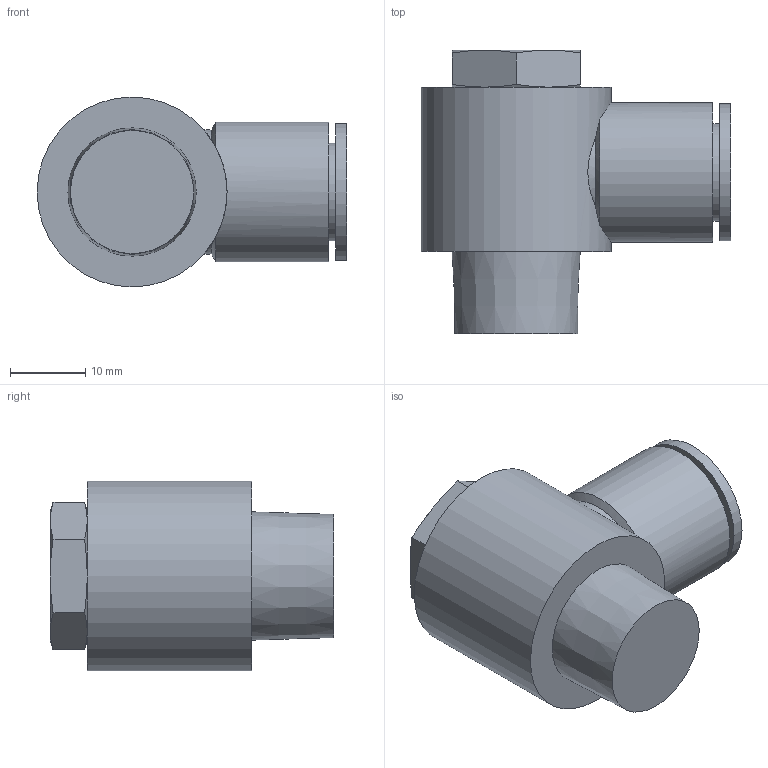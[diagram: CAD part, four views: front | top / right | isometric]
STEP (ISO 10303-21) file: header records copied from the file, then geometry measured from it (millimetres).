
FILE_DESCRIPTION(/* description */ ('STEP AP214'),/* implementation_level */ '2;1');
FILE_NAME(/* name */ 'KQ2V12-03AS',/* time_stamp */ '2024-10-24T13:56:45+02:00',/* author */ ('License CC BY-ND 4.0'),/* organization */ ('CADENAS'),/* preprocessor_version */ 'ST-DEVELOPER v19.3',/* originating_system */ 'PARTsolutions',/* authorisation */ ' ');
FILE_SCHEMA (('AUTOMOTIVE_DESIGN {1 0 10303 214 3 1 1}'));
Length unit declared in the file: millimetre
Products named in the file (1): KQ2V12-03AS
Bounding box: 41.1 x 37.6 x 25.2 mm (x, y, z)
Volume: 16910.2 mm3; surface area: 5518.4 mm2
Topology: 1 solids, 1 shells, 36 faces, 75 edges, 46 vertices
Faces by surface type: cone 15, plane 14, cylinder 7
Full cylindrical faces by diameter (mm): 12 x1, 12.95 x1, 18.2 x1, 18.5 x1, 25.2 x1
Entity records: 962 total; most frequent: CARTESIAN_POINT 253, DIRECTION 134, ORIENTED_EDGE 130, EDGE_CURVE 65, AXIS2_PLACEMENT_3D 64, EDGE_LOOP 48, FACE_BOUND 48, VERTEX_POINT 43
